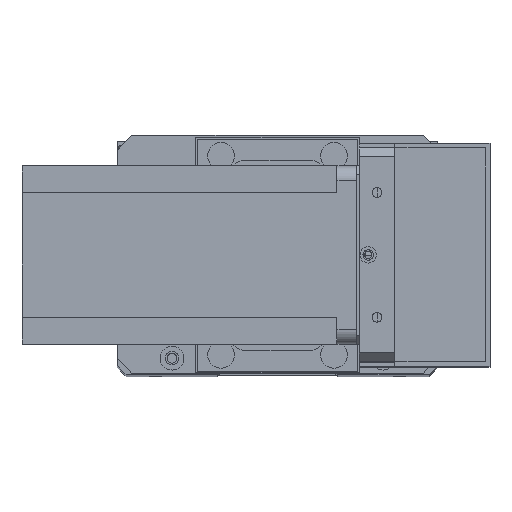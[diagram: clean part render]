
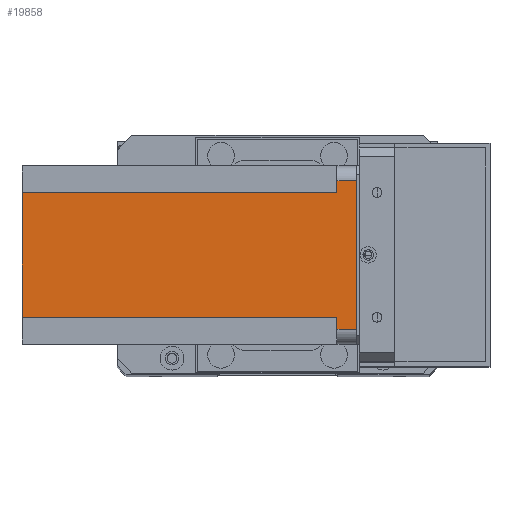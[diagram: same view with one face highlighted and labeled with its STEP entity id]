
A CAD part, top view. The second image highlights one B-rep face of the part: STEP entity #19858.
In plain terms, the highlighted planar face has unit normal (0, 0, 1) as drawn and (1, 0, 0) by its records, which use the part's own axes.
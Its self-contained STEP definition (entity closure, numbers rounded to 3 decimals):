
#178 = LINE ( 'NONE', #9713, #9941 ) ;
#370 = CARTESIAN_POINT ( 'NONE',  ( 60., 5., 0. ) ) ;
#1093 = PLANE ( 'NONE',  #23492 ) ;
#1285 = VERTEX_POINT ( 'NONE', #21814 ) ;
#2664 = DIRECTION ( 'NONE',  ( 0., 0., 1. ) ) ;
#3360 = DIRECTION ( 'NONE',  ( 1., 0., 0. ) ) ;
#3649 = VECTOR ( 'NONE', #5163, 1000. ) ;
#3717 = CARTESIAN_POINT ( 'NONE',  ( 60., 55., -112.5 ) ) ;
#3894 = EDGE_CURVE ( 'NONE', #21514, #11234, #22153, .T. ) ;
#5163 = DIRECTION ( 'NONE',  ( 0., -1., 0. ) ) ;
#5314 = EDGE_CURVE ( 'NONE', #22349, #11234, #22440, .T. ) ;
#7180 = ORIENTED_EDGE ( 'NONE', *, *, #27715, .T. ) ;
#7869 = CARTESIAN_POINT ( 'NONE',  ( 60., 5., -6.5 ) ) ;
#8572 = ORIENTED_EDGE ( 'NONE', *, *, #21388, .F. ) ;
#8649 = EDGE_CURVE ( 'NONE', #9615, #1285, #13780, .T. ) ;
#8990 = EDGE_CURVE ( 'NONE', #9615, #20344, #178, .T. ) ;
#9386 = CARTESIAN_POINT ( 'NONE',  ( 60., 0., 0. ) ) ;
#9615 = VERTEX_POINT ( 'NONE', #16390 ) ;
#9713 = CARTESIAN_POINT ( 'NONE',  ( 60., 60., -6.5 ) ) ;
#9784 = DIRECTION ( 'NONE',  ( 0., 0., -1. ) ) ;
#9853 = VECTOR ( 'NONE', #2664, 1000. ) ;
#9941 = VECTOR ( 'NONE', #27615, 1000. ) ;
#9945 = ORIENTED_EDGE ( 'NONE', *, *, #28057, .F. ) ;
#10393 = VECTOR ( 'NONE', #20912, 1000. ) ;
#10687 = ORIENTED_EDGE ( 'NONE', *, *, #8990, .F. ) ;
#10756 = EDGE_CURVE ( 'NONE', #22349, #1285, #10909, .T. ) ;
#10909 = LINE ( 'NONE', #9386, #27353 ) ;
#11234 = VERTEX_POINT ( 'NONE', #7869 ) ;
#13780 = LINE ( 'NONE', #3717, #19749 ) ;
#14104 = ORIENTED_EDGE ( 'NONE', *, *, #10756, .F. ) ;
#14136 = CARTESIAN_POINT ( 'NONE',  ( 60., 5., -112.5 ) ) ;
#15284 = VERTEX_POINT ( 'NONE', #26563 ) ;
#15515 = ORIENTED_EDGE ( 'NONE', *, *, #5314, .T. ) ;
#16154 = CARTESIAN_POINT ( 'NONE',  ( 60., 0., -6.5 ) ) ;
#16182 = DIRECTION ( 'NONE',  ( 0., 1., 0. ) ) ;
#16252 = CARTESIAN_POINT ( 'NONE',  ( 60., 51., -6.5 ) ) ;
#16390 = CARTESIAN_POINT ( 'NONE',  ( 60., 55., -6.5 ) ) ;
#16450 = VECTOR ( 'NONE', #9784, 1000. ) ;
#16994 = LINE ( 'NONE', #20824, #10393 ) ;
#17028 = DIRECTION ( 'NONE',  ( 0., 0., 1. ) ) ;
#17249 = ORIENTED_EDGE ( 'NONE', *, *, #8649, .T. ) ;
#17265 = DIRECTION ( 'NONE',  ( 0., 1., 0. ) ) ;
#17536 = LINE ( 'NONE', #19442, #22817 ) ;
#17978 = VERTEX_POINT ( 'NONE', #18940 ) ;
#18924 = DIRECTION ( 'NONE',  ( 0., 1., 0. ) ) ;
#18940 = CARTESIAN_POINT ( 'NONE',  ( 60., 51., -112.5 ) ) ;
#19442 = CARTESIAN_POINT ( 'NONE',  ( 60., 0., -112.5 ) ) ;
#19749 = VECTOR ( 'NONE', #17028, 1000. ) ;
#19858 = ADVANCED_FACE ( 'NONE', ( #25168 ), #1093, .T. ) ;
#20344 = VERTEX_POINT ( 'NONE', #16252 ) ;
#20824 = CARTESIAN_POINT ( 'NONE',  ( 60., 51., -112.5 ) ) ;
#20912 = DIRECTION ( 'NONE',  ( 0., 0., -1. ) ) ;
#21388 = EDGE_CURVE ( 'NONE', #20344, #17978, #16994, .T. ) ;
#21514 = VERTEX_POINT ( 'NONE', #25885 ) ;
#21751 = LINE ( 'NONE', #22669, #9853 ) ;
#21814 = CARTESIAN_POINT ( 'NONE',  ( 60., 55., 0. ) ) ;
#22153 = LINE ( 'NONE', #16154, #3649 ) ;
#22349 = VERTEX_POINT ( 'NONE', #370 ) ;
#22440 = LINE ( 'NONE', #14136, #16450 ) ;
#22582 = ORIENTED_EDGE ( 'NONE', *, *, #3894, .F. ) ;
#22669 = CARTESIAN_POINT ( 'NONE',  ( 60., 9., -112.5 ) ) ;
#22817 = VECTOR ( 'NONE', #17265, 1000. ) ;
#23492 = AXIS2_PLACEMENT_3D ( 'NONE', #27749, #3360, #18924 ) ;
#25168 = FACE_OUTER_BOUND ( 'NONE', #27062, .T. ) ;
#25885 = CARTESIAN_POINT ( 'NONE',  ( 60., 9., -6.5 ) ) ;
#26563 = CARTESIAN_POINT ( 'NONE',  ( 60., 9., -112.5 ) ) ;
#27062 = EDGE_LOOP ( 'NONE', ( #10687, #17249, #14104, #15515, #22582, #9945, #7180, #8572 ) ) ;
#27353 = VECTOR ( 'NONE', #16182, 1000. ) ;
#27615 = DIRECTION ( 'NONE',  ( 0., -1., 0. ) ) ;
#27715 = EDGE_CURVE ( 'NONE', #15284, #17978, #17536, .T. ) ;
#27749 = CARTESIAN_POINT ( 'NONE',  ( 60., 0., -112.5 ) ) ;
#28057 = EDGE_CURVE ( 'NONE', #15284, #21514, #21751, .T. ) ;
